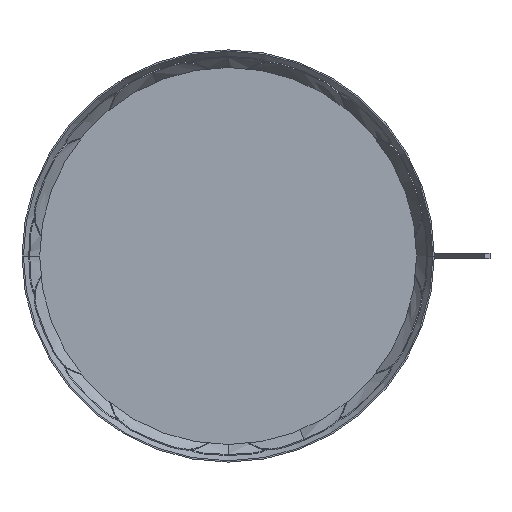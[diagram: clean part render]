
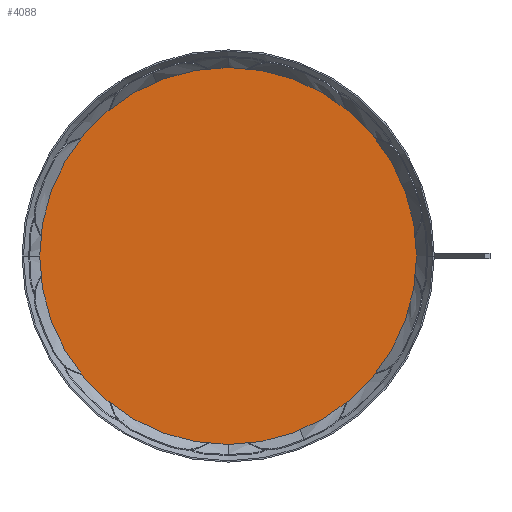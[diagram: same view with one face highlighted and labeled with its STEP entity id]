
A CAD part, front view. The second image highlights one B-rep face of the part: STEP entity #4088.
In plain terms, the highlighted planar face has unit normal (0, -1, 0).
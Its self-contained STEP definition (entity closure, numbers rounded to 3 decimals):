
#93 = CARTESIAN_POINT ( 'NONE',  ( 0., 22.501, 0. ) ) ;
#600 = CARTESIAN_POINT ( 'NONE',  ( 0., 22.501, 0. ) ) ;
#1143 = DIRECTION ( 'NONE',  ( 0., 1., 0. ) ) ;
#1488 = VERTEX_POINT ( 'NONE', #5612 ) ;
#1517 = DIRECTION ( 'NONE',  ( 0., 0., 1. ) ) ;
#1546 = CIRCLE ( 'NONE', #11997, 320. ) ;
#1944 = DIRECTION ( 'NONE',  ( 0., 0., 1. ) ) ;
#3333 = DIRECTION ( 'NONE',  ( 0., 1., 0. ) ) ;
#4088 = ADVANCED_FACE ( 'NONE', ( #6626 ), #9541, .F. ) ;
#4457 = EDGE_CURVE ( 'NONE', #9151, #1488, #1546, .T. ) ;
#5607 = DIRECTION ( 'NONE',  ( 0., 0., 1. ) ) ;
#5612 = CARTESIAN_POINT ( 'NONE',  ( 0., 22.501, 320. ) ) ;
#6626 = FACE_OUTER_BOUND ( 'NONE', #7467, .T. ) ;
#7153 = EDGE_CURVE ( 'NONE', #1488, #9151, #8185, .T. ) ;
#7467 = EDGE_LOOP ( 'NONE', ( #11380, #9174 ) ) ;
#8185 = CIRCLE ( 'NONE', #11443, 320. ) ;
#9151 = VERTEX_POINT ( 'NONE', #10842 ) ;
#9174 = ORIENTED_EDGE ( 'NONE', *, *, #7153, .F. ) ;
#9311 = DIRECTION ( 'NONE',  ( 0., 1., 0. ) ) ;
#9541 = PLANE ( 'NONE',  #10719 ) ;
#10156 = CARTESIAN_POINT ( 'NONE',  ( 0., 22.501, 0. ) ) ;
#10719 = AXIS2_PLACEMENT_3D ( 'NONE', #93, #1143, #1944 ) ;
#10842 = CARTESIAN_POINT ( 'NONE',  ( 0., 22.501, -320. ) ) ;
#11380 = ORIENTED_EDGE ( 'NONE', *, *, #4457, .F. ) ;
#11443 = AXIS2_PLACEMENT_3D ( 'NONE', #10156, #9311, #5607 ) ;
#11997 = AXIS2_PLACEMENT_3D ( 'NONE', #600, #3333, #1517 ) ;
